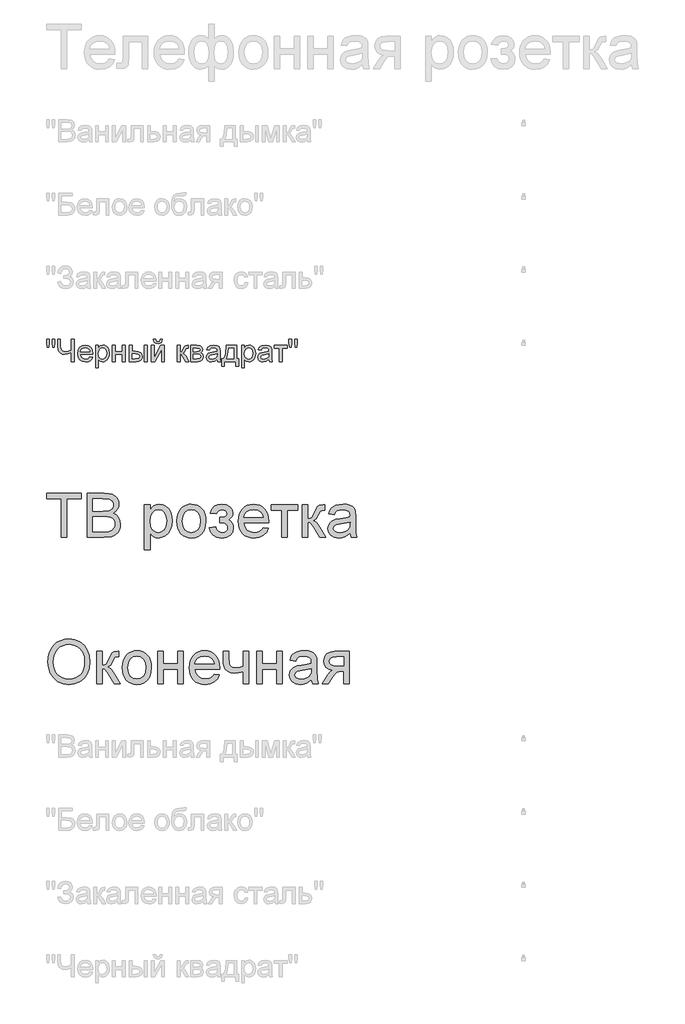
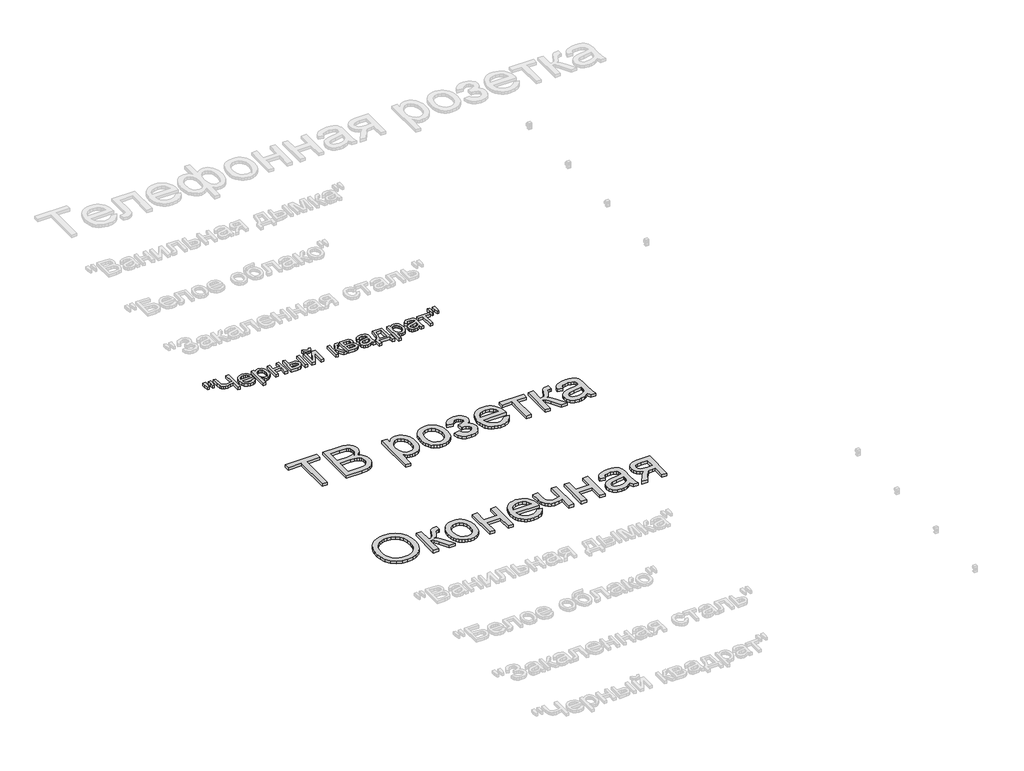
# One storey, part 28 of 168: 3 proxies.
"""IFC4 building model written with IfcOpenShell, lengths in millimetres."""

from ifc_helpers import new_model, si_unit, origin, origin_with_axes, place, context, project, spatial, polyline, outline, extrude, element, save

model = new_model("IFC4")

# Units and contexts
model_context = context("Model", 3, world=origin())
ifc_project = project(units=[si_unit("LENGTHUNIT", "METRE", prefix="MILLI")], contexts=[model_context])

# Site, building, storey
site = spatial("IfcSite", under=ifc_project)
building = spatial("IfcBuilding", under=site)
storey = spatial("IfcBuildingStorey", under=building, Name="Этаж 01", Elevation=0.0)

# Proxies
placement = place(None, origin())
element("IfcBuildingElementProxy", 1, Name="300 мм Arial 2", ObjectType="300 мм Arial 2", at=placement, inside=storey, context=model_context, shape_type="SweptSolid", body=[
    extrude(outline(polyline([(54484.0654293, -49766.8622977), (54484.0654293, -49503.1644836), (54385.178749, -49503.1644836), (54385.178749, -49465.4933673), (54620.6232259, -49465.4933673), (54620.6232259, -49503.1644836), (54521.7365456, -49503.1644836), (54521.7365456, -49766.8622977), (54484.0654293, -49766.8622977)])), origin_with_axes(), (0.0, 0.0, 1.0), 20.0),
    extrude(outline(polyline([(54663.0032317, -49766.8622977), (54663.0032317, -49465.4933673), (54778.0031434, -49465.4933673), (54809.631798, -49467.7098563), (54834.3258769, -49474.3593234), (54853.2534056, -49485.6073154), (54867.5824093, -49501.6193792), (54876.6047152, -49520.4549374), (54879.6121505, -49540.1734123), (54877.0829618, -49558.3191917), (54869.4953956, -49575.3797192), (54856.7942698, -49590.3065312), (54838.9244018, -49602.0511639), (54860.2707546, -49613.1979883), (54876.0436952, -49630.1573483), (54885.783371, -49651.8072037), (54889.0299296, -49677.0255145), (54886.8134406, -49698.0407735), (54880.1639735, -49717.5293222), (54870.2403567, -49734.1024061), (54858.2014184, -49746.3712706), (54843.4585474, -49755.2556208), (54825.4231326, -49761.6751616), (54777.1202267, -49766.8622977), (54663.0032317, -49766.8622977)]), holes=[polyline([(54700.6743481, -49587.9244953), (54769.4682812, -49587.9244953), (54809.640995, -49584.6871337), (54823.7032843, -49579.1045244), (54833.8108421, -49570.7444061), (54839.9084862, -49559.7355374), (54841.9410342, -49546.206677), (54840.0464419, -49533.0732898), (54834.3626651, -49521.6321597), (54825.1472211, -49512.7018243), (54812.6576274, -49507.1008209), (54764.2443568, -49503.1644836), (54700.6743481, -49503.1644836), (54700.6743481, -49587.9244953)]), polyline([(54700.6743481, -49729.1911814), (54777.929567, -49729.1911814), (54805.8885987, -49727.7196534), (54829.543411, -49719.515885), (54845.215184, -49702.7772542), (54849.8229059, -49690.949848), (54851.3588133, -49677.3933965), (54849.5561915, -49661.6480471), (54844.1483262, -49648.1099897), (54834.7029559, -49637.5241853), (54820.7878195, -49630.6355949), (54801.0785416, -49626.8556074), (54774.2507471, -49625.5956116), (54700.6743481, -49625.5956116), (54700.6743481, -49729.1911814)])]), origin_with_axes(), (0.0, 0.0, 1.0), 20.0),
    extrude(outline(polyline([(55053.8410634, -49851.6223094), (55053.8410634, -49545.5444894), (55091.5121797, -49545.5444894), (55091.5121797, -49582.4798418), (55103.7994384, -49564.2604859), (55117.558225, -49551.2466604), (55133.59788, -49543.438365), (55152.7277437, -49540.8355999), (55178.2035719, -49544.4776316), (55200.4788267, -49555.4037269), (55218.6154091, -49572.9516981), (55231.6752199, -49596.4593576), (55239.5662887, -49624.2160541), (55242.196645, -49654.5111364), (55239.2259978, -49686.7284021), (55230.3140565, -49715.5427594), (55215.7459295, -49739.4918773), (55195.8067254, -49757.1134249), (55172.5841744, -49767.9567467), (55148.166007, -49771.5711873), (55130.8479621, -49769.1523632), (55115.3877212, -49761.8958908), (55102.1531664, -49750.9422044), (55091.5121797, -49737.4317381), (55091.5121797, -49851.6223094), (55053.8410634, -49851.6223094)]), holes=[polyline([(55091.5121797, -49657.9692272), (55095.5864728, -49691.7407943), (55107.8093521, -49715.3588184), (55125.8447669, -49729.2647578), (55147.3566666, -49733.900071), (55169.2180542, -49729.0992109), (55187.7133215, -49714.6966308), (55200.3224769, -49690.214084), (55204.5255286, -49655.173324), (55200.4236444, -49621.5856978), (55188.1179917, -49597.63658), (55170.110168, -49583.2891821), (55148.901771, -49578.5067162), (55127.6106005, -49583.5926848), (55108.9129981, -49598.8505905), (55095.8623843, -49623.8021869), (55091.5121797, -49657.9692272)])]), origin_with_axes(), (0.0, 0.0, 1.0), 20.0),
    extrude(outline(polyline([(55275.1588717, -49656.2033936), (55277.1960183, -49627.5407876), (55283.3074579, -49602.8421102), (55293.4931907, -49582.1073612), (55307.7532165, -49565.3365408), (55322.1098114, -49554.6173791), (55337.9563283, -49546.9608351), (55355.2927673, -49542.3669087), (55374.1191284, -49540.8355999), (55394.9021619, -49542.7003018), (55413.6940341, -49548.2944073), (55430.4947449, -49557.6179167), (55445.3042945, -49570.6708297), (55457.3915173, -49587.0116881), (55466.0252479, -49606.1990334), (55471.2054862, -49628.2328656), (55472.9322323, -49653.1131848), (55469.8788118, -49691.1705772), (55460.7185501, -49720.1412843), (55445.7181617, -49741.837125), (55425.1443612, -49758.069918), (55400.7077996, -49768.19587), (55374.1191284, -49771.5711873), (55353.0325923, -49769.7133832), (55334.0659762, -49764.139971), (55317.2192801, -49754.8509506), (55302.492504, -49741.8463221), (55290.5340399, -49725.3468146), (55281.9922798, -49705.5731573), (55276.8672237, -49682.5253503), (55275.1588717, -49656.2033936)]), holes=[polyline([(55312.829988, -49656.1298172), (55317.1893897, -49690.2232811), (55330.2675946, -49714.5126898), (55349.9492813, -49729.0532257), (55374.1191284, -49733.900071), (55398.1786109, -49729.0256345), (55417.8235094, -49714.4023252), (55430.9017144, -49689.7910197), (55435.261116, -49654.9525948), (55430.8741232, -49621.8524123), (55417.7131449, -49597.8940973), (55398.0406552, -49583.3535615), (55374.1191284, -49578.5067162), (55349.9492813, -49583.3351674), (55330.2675946, -49597.820521), (55317.1893897, -49622.0547474), (55312.829988, -49656.1298172)])]), origin_with_axes(), (0.0, 0.0, 1.0), 20.0),
    extrude(outline(polyline([(55567.1100231, -49667.9756174), (55567.1100231, -49630.3045011), (55596.8348883, -49628.8329731), (55611.8444737, -49620.9970866), (55617.1419744, -49613.6486438), (55618.907808, -49604.6263379), (55616.5441662, -49593.9117748), (55609.4532407, -49585.6068387), (55598.628313, -49580.2817468), (55585.0626645, -49578.5067162), (55571.3498631, -49580.2725498), (55559.8627478, -49585.5700505), (55550.6013186, -49594.3992184), (55543.5655754, -49606.7600534), (55501.1855696, -49602.0511639), (55512.4243645, -49575.2693546), (55529.5124832, -49556.1394909), (55552.4499256, -49544.6615726), (55581.2366917, -49540.8355999), (55612.7273905, -49545.4985042), (55636.5661438, -49559.4872171), (55651.5757292, -49579.950653), (55656.5789243, -49604.0377267), (55654.7992952, -49616.3985617), (55649.4604077, -49627.4350216), (55640.562262, -49637.1471062), (55628.1048579, -49645.5348157), (55642.6453938, -49656.0010585), (55653.010469, -49669.005687), (55659.2184776, -49684.5854895), (55661.2878139, -49702.7772542), (55656.0362984, -49730.5063596), (55640.2817519, -49752.4781117), (55615.0910323, -49766.7979184), (55581.5309973, -49771.5711873), (55548.7067263, -49767.1566033), (55523.5895831, -49753.9128515), (55506.1795676, -49731.8399318), (55496.47668, -49700.9378442), (55538.8566859, -49696.2289547), (55545.2026503, -49712.1582451), (55555.852834, -49724.0408335), (55569.5748325, -49731.4352616), (55585.1362409, -49733.900071), (55600.2929791, -49731.5364291), (55612.6538141, -49724.4455037), (55620.8759767, -49713.6757583), (55623.6166976, -49700.2756566), (55621.9152433, -49689.662261), (55616.8108806, -49680.4836053), (55602.31633, -49669.8886038), (55574.467663, -49667.7548882), (55567.1100231, -49667.9756174)])), origin_with_axes(), (0.0, 0.0, 1.0), 20.0),
    extrude(outline(polyline([(55863.3286056, -49700.9378442), (55900.2639579, -49705.6467337), (55886.9558267, -49733.4770067), (55865.7198386, -49754.2807335), (55837.03424, -49767.2485738), (55801.3772776, -49771.5711873), (55778.0029754, -49769.7064854), (55757.1762559, -49764.1123798), (55738.8971193, -49754.7888705), (55723.1655654, -49741.7359575), (55710.5150233, -49725.3169242), (55701.4789218, -49705.8950541), (55696.0572609, -49683.4703472), (55694.2500406, -49658.0428036), (55696.075655, -49631.7530365), (55701.5524982, -49608.5810693), (55710.6805702, -49588.526902), (55723.459871, -49571.5905347), (55739.1500381, -49558.1352507), (55757.010709, -49548.5243336), (55777.0418836, -49542.7577833), (55799.243562, -49540.8355999), (55820.7301698, -49542.7531848), (55840.161237, -49548.5059395), (55857.5367634, -49558.093864), (55872.8567493, -49571.5169583), (55885.3624379, -49588.4165374), (55894.2950726, -49608.4339165), (55899.6546534, -49631.5690955), (55901.4411803, -49657.8220744), (55901.2204511, -49667.9756174), (55731.9211569, -49667.9756174), (55738.4418653, -49696.1737724), (55753.5894064, -49716.9039228), (55775.450794, -49729.6510339), (55802.1130416, -49733.900071), (55822.1626103, -49731.9319023), (55839.0483939, -49726.0273963), (55852.7703923, -49715.8186709), (55863.3286056, -49700.9378442)]), holes=[polyline([(55731.9211569, -49630.3045011), (55863.770064, -49630.3045011), (55858.6748984, -49610.4020852), (55848.6869022, -49596.165052), (55826.7243471, -49582.9213001), (55799.0964093, -49578.5067162), (55773.7033545, -49582.0291863), (55752.7064897, -49592.5965966), (55738.1107715, -49609.068513), (55731.9211569, -49630.3045011)])]), origin_with_axes(), (0.0, 0.0, 1.0), 20.0),
    extrude(outline(polyline([(55920.2767385, -49545.5444894), (56099.2145409, -49545.5444894), (56099.2145409, -49583.2156057), (56028.5811978, -49583.2156057), (56028.5811978, -49766.8622977), (55990.9100815, -49766.8622977), (55990.9100815, -49583.2156057), (55920.2767385, -49583.2156057), (55920.2767385, -49545.5444894)])), origin_with_axes(), (0.0, 0.0, 1.0), 20.0),
    extrude(outline(polyline([(56132.1767677, -49545.5444894), (56169.847884, -49545.5444894), (56169.847884, -49639.7222802), (56185.1701691, -49638.030023), (56195.0845889, -49632.9532515), (56203.8585744, -49619.7094997), (56215.759557, -49593.5163016), (56232.9396462, -49559.4872171), (56248.0963844, -49548.413969), (56275.6507458, -49545.5444894), (56282.8612329, -49545.5444894), (56282.8612329, -49583.4363349), (56272.7076898, -49583.2156057), (56254.3135901, -49587.1887313), (56241.3641439, -49611.9839778), (56226.1706175, -49638.8025752), (56204.8702499, -49651.9359624), (56216.8080207, -49657.2380617), (56228.6354268, -49666.5960599), (56251.9591453, -49697.4797534), (56292.279012, -49766.8622977), (56249.4575477, -49766.8622977), (56209.9470215, -49698.9512814), (56190.0813937, -49670.2196976), (56180.7923733, -49665.0049703), (56169.847884, -49663.2667279), (56169.847884, -49766.8622977), (56132.1767677, -49766.8622977), (56132.1767677, -49545.5444894)])), origin_with_axes(), (0.0, 0.0, 1.0), 20.0),
    extrude(outline(polyline([(56457.0901458, -49738.6089605), (56439.0915192, -49754.0416102), (56420.5594637, -49764.139971), (56401.070915, -49769.7133832), (56380.2028088, -49771.5711873), (56348.7213071, -49767.101421), (56325.4987561, -49753.6921223), (56311.1789495, -49733.3298539), (56306.4056806, -49708.0011785), (56308.2083024, -49692.3845878), (56313.6161677, -49678.2027369), (56321.9578919, -49666.0626311), (56332.5620905, -49656.5712756), (56358.9392295, -49644.2104405), (56391.5335743, -49638.5450578), (56430.0508192, -49632.5853695), (56456.8694166, -49625.5956116), (56457.0901458, -49617.2079021), (56454.4965778, -49600.3956949), (56446.7158736, -49589.3960233), (56429.3150552, -49581.229043), (56405.0716317, -49578.5067162), (56382.63083, -49580.318535), (56366.959057, -49585.7539915), (56356.272085, -49595.806367), (56348.7856864, -49611.468943), (56311.1145701, -49606.7600534), (56317.6536726, -49586.1586617), (56327.4117425, -49569.9718539), (56341.2992878, -49557.5926248), (56360.2268165, -49548.413969), (56383.375791, -49542.7301922), (56409.927674, -49540.8355999), (56435.3943052, -49542.509463), (56455.5818296, -49547.5310522), (56470.8029472, -49555.0818302), (56481.3703575, -49564.3432594), (56488.3785095, -49575.7935865), (56492.9218522, -49589.9110581), (56494.7612621, -49622.8732848), (56494.7612621, -49669.741451), (56496.6742485, -49735.1876579), (56504.1790412, -49766.8622977), (56466.5079249, -49766.8622977), (56457.0901458, -49738.6089605)]), holes=[polyline([(56457.0901458, -49663.2667279), (56396.3160402, -49674.8182225), (56363.9056364, -49680.9250637), (56349.2271448, -49690.8578775), (56344.0767969, -49705.3524281), (56346.8818971, -49716.5544349), (56355.2971978, -49725.7330907), (56369.1387578, -49731.8583259), (56388.2226363, -49733.900071), (56408.4561461, -49731.6467937), (56426.335211, -49724.8869621), (56440.8297616, -49714.9265571), (56450.9097283, -49703.0715598), (56455.3794945, -49690.8578775), (56456.8694166, -49673.9353058), (56457.0901458, -49663.2667279)])]), origin_with_axes(), (0.0, 0.0, 1.0), 20.0),
])
element("IfcBuildingElementProxy", 2, Name="300 мм Arial 2", ObjectType="300 мм Arial 2", at=placement, inside=storey, context=model_context, shape_type="SweptSolid", body=[
    extrude(outline(polyline([(54394.5965281, -50620.1509581), (54397.1073227, -50584.8020968), (54404.6397065, -50553.5091346), (54417.1936796, -50526.2720714), (54434.7692419, -50503.0909072), (54456.3133313, -50484.5818443), (54480.7728854, -50471.3610851), (54508.1479044, -50463.4286296), (54538.4383882, -50460.7844777), (54577.9673086, -50465.7508847), (54613.4127388, -50480.6501055), (54642.8432984, -50504.4336765), (54664.3276069, -50536.053134), (54677.4609942, -50573.9817677), (54681.8387899, -50616.6928673), (54677.2310679, -50659.974184), (54663.4079019, -50698.4362466), (54641.1326471, -50730.1108864), (54611.1686586, -50753.0299347), (54576.026731, -50766.9358741), (54538.217659, -50771.5711873), (54498.0817333, -50766.4484305), (54462.433968, -50751.0801601), (54433.0769848, -50726.8551308), (54411.8134054, -50695.1620969), (54398.9007474, -50658.6957941), (54394.5965281, -50620.1509581)]), holes=[polyline([(54432.2676444, -50620.5188401), (54434.1507403, -50645.493429), (54439.8000282, -50667.6629177), (54449.215508, -50687.0273063), (54462.3971798, -50703.5865946), (54478.4207399, -50716.8487405), (54496.361885, -50726.3217019), (54516.2206149, -50732.0054787), (54537.9969298, -50733.900071), (54560.1457252, -50731.9870846), (54580.2389799, -50726.2481255), (54598.276694, -50716.6831936), (54614.2588674, -50703.292289), (54627.3439701, -50686.3835128), (54636.690472, -50666.2649662), (54642.2983732, -50642.9366491), (54644.1676736, -50616.3985617), (54640.9671002, -50583.0500588), (54631.3653802, -50554.2265045), (54615.6108337, -50530.6544657), (54593.9517813, -50513.0605093), (54567.8229625, -50502.1068229), (54538.6591174, -50498.4555941), (54517.6392599, -50500.2145298), (54498.1369156, -50505.4913372), (54480.1520846, -50514.2860162), (54463.6847668, -50526.5985667), (54449.9397757, -50543.0221985), (54440.121925, -50564.1501213), (54434.2312145, -50589.9823352), (54432.2676444, -50620.5188401)])]), origin_with_axes(), (0.0, 0.0, 1.0), 20.0),
    extrude(outline(polyline([(54728.9276853, -50545.5444894), (54766.5988016, -50545.5444894), (54766.5988016, -50639.7222802), (54781.9210867, -50638.030023), (54791.8355065, -50632.9532515), (54800.609492, -50619.7094997), (54812.5104746, -50593.5163016), (54829.6905638, -50559.4872171), (54844.847302, -50548.413969), (54872.4016634, -50545.5444894), (54879.6121505, -50545.5444894), (54879.6121505, -50583.4363349), (54869.4586074, -50583.2156057), (54851.0645077, -50587.1887313), (54838.1150615, -50611.9839778), (54822.921535, -50638.8025752), (54801.6211675, -50651.9359624), (54813.5589383, -50657.2380617), (54825.3863444, -50666.5960599), (54848.7100629, -50697.4797534), (54889.0299296, -50766.8622977), (54846.2084653, -50766.8622977), (54806.6979391, -50698.9512814), (54786.8323113, -50670.2196976), (54777.5432909, -50665.0049703), (54766.5988016, -50663.2667279), (54766.5988016, -50766.8622977), (54728.9276853, -50766.8622977), (54728.9276853, -50545.5444894)])), origin_with_axes(), (0.0, 0.0, 1.0), 20.0),
    extrude(outline(polyline([(54903.1565982, -50656.2033936), (54905.1937447, -50627.5407876), (54911.3051844, -50602.8421102), (54921.4909171, -50582.1073612), (54935.750943, -50565.3365408), (54950.1075378, -50554.6173791), (54965.9540548, -50546.9608351), (54983.2904938, -50542.3669087), (55002.1168549, -50540.8355999), (55022.8998884, -50542.7003018), (55041.6917605, -50548.2944073), (55058.4924714, -50557.6179167), (55073.302021, -50570.6708297), (55085.3892438, -50587.0116881), (55094.0229743, -50606.1990334), (55099.2032127, -50628.2328656), (55100.9299588, -50653.1131848), (55097.8765382, -50691.1705772), (55088.7162766, -50720.1412843), (55073.7158882, -50741.837125), (55053.1420876, -50758.069918), (55028.7055261, -50768.19587), (55002.1168549, -50771.5711873), (54981.0303188, -50769.7133832), (54962.0637027, -50764.139971), (54945.2170066, -50754.8509506), (54930.4902304, -50741.8463221), (54918.5317663, -50725.3468146), (54909.9900063, -50705.5731573), (54904.8649502, -50682.5253503), (54903.1565982, -50656.2033936)]), holes=[polyline([(54940.8277145, -50656.1298172), (54945.1871161, -50690.2232811), (54958.2653211, -50714.5126898), (54977.9470078, -50729.0532257), (55002.1168549, -50733.900071), (55026.1763374, -50729.0256345), (55045.8212359, -50714.4023252), (55058.8994409, -50689.7910197), (55063.2588425, -50654.9525948), (55058.8718497, -50621.8524123), (55045.7108713, -50597.8940973), (55026.0383816, -50583.3535615), (55002.1168549, -50578.5067162), (54977.9470078, -50583.3351674), (54958.2653211, -50597.820521), (54945.1871161, -50622.0547474), (54940.8277145, -50656.1298172)])]), origin_with_axes(), (0.0, 0.0, 1.0), 20.0),
    extrude(outline(polyline([(55143.3099646, -50545.5444894), (55180.981081, -50545.5444894), (55180.981081, -50630.3045011), (55279.8677613, -50630.3045011), (55279.8677613, -50545.5444894), (55317.5388776, -50545.5444894), (55317.5388776, -50766.8622977), (55279.8677613, -50766.8622977), (55279.8677613, -50667.9756174), (55180.981081, -50667.9756174), (55180.981081, -50766.8622977), (55143.3099646, -50766.8622977), (55143.3099646, -50545.5444894)])), origin_with_axes(), (0.0, 0.0, 1.0), 20.0),
    extrude(outline(polyline([(55528.9974484, -50700.9378442), (55565.9328007, -50705.6467337), (55552.6246695, -50733.4770067), (55531.3886814, -50754.2807335), (55502.7030828, -50767.2485738), (55467.0461204, -50771.5711873), (55443.6718181, -50769.7064854), (55422.8450987, -50764.1123798), (55404.565962, -50754.7888705), (55388.8344082, -50741.7359575), (55376.1838661, -50725.3169242), (55367.1477646, -50705.8950541), (55361.7261037, -50683.4703472), (55359.9188834, -50658.0428036), (55361.7444978, -50631.7530365), (55367.221341, -50608.5810693), (55376.349413, -50588.526902), (55389.1287138, -50571.5905347), (55404.8188809, -50558.1352507), (55422.6795518, -50548.5243336), (55442.7107264, -50542.7577833), (55464.9124048, -50540.8355999), (55486.3990126, -50542.7531848), (55505.8300797, -50548.5059395), (55523.2056062, -50558.093864), (55538.5255921, -50571.5169583), (55551.0312806, -50588.4165374), (55559.9639153, -50608.4339165), (55565.3234962, -50631.5690955), (55567.1100231, -50657.8220744), (55566.8892939, -50667.9756174), (55397.5899997, -50667.9756174), (55404.1107081, -50696.1737724), (55419.2582492, -50716.9039228), (55441.1196368, -50729.6510339), (55467.7818844, -50733.900071), (55487.8314531, -50731.9319023), (55504.7172367, -50726.0273963), (55518.4392351, -50715.8186709), (55528.9974484, -50700.9378442)]), holes=[polyline([(55397.5899997, -50630.3045011), (55529.4389068, -50630.3045011), (55524.3437412, -50610.4020852), (55514.355745, -50596.165052), (55492.3931899, -50582.9213001), (55464.765252, -50578.5067162), (55439.3721973, -50582.0291863), (55418.3753324, -50592.5965966), (55403.7796143, -50609.068513), (55397.5899997, -50630.3045011)])]), origin_with_axes(), (0.0, 0.0, 1.0), 20.0),
    extrude(outline(polyline([(55590.6544708, -50545.5444894), (55628.3255871, -50545.5444894), (55628.3255871, -50587.9980717), (55631.3790077, -50627.8029036), (55636.5753408, -50639.3727923), (55646.0574993, -50649.3607885), (55659.1540983, -50656.2585759), (55675.1937533, -50658.5578384), (55698.2415603, -50655.7067529), (55727.2122674, -50647.1534965), (55727.2122674, -50545.5444894), (55764.8833837, -50545.5444894), (55764.8833837, -50766.8622977), (55727.2122674, -50766.8622977), (55727.2122674, -50683.2795084), (55695.059381, -50692.9915931), (55665.1137866, -50696.2289547), (55642.3326941, -50692.8536374), (55622.402687, -50682.7276854), (55606.8688697, -50667.708903), (55597.2763467, -50649.6550941), (55592.3099398, -50629.1088846), (55590.6544708, -50606.6129006), (55590.6544708, -50545.5444894)])), origin_with_axes(), (0.0, 0.0, 1.0), 20.0),
    extrude(outline(polyline([(55821.3900582, -50545.5444894), (55859.0611745, -50545.5444894), (55859.0611745, -50630.3045011), (55957.9478548, -50630.3045011), (55957.9478548, -50545.5444894), (55995.6189711, -50545.5444894), (55995.6189711, -50766.8622977), (55957.9478548, -50766.8622977), (55957.9478548, -50667.9756174), (55859.0611745, -50667.9756174), (55859.0611745, -50766.8622977), (55821.3900582, -50766.8622977), (55821.3900582, -50545.5444894)])), origin_with_axes(), (0.0, 0.0, 1.0), 20.0),
    extrude(outline(polyline([(56193.3923317, -50738.6089605), (56175.3937051, -50754.0416102), (56156.8616496, -50764.139971), (56137.3731009, -50769.7133832), (56116.5049947, -50771.5711873), (56085.023493, -50767.101421), (56061.800942, -50753.6921223), (56047.4811353, -50733.3298539), (56042.7078665, -50708.0011785), (56044.5104882, -50692.3845878), (56049.9183536, -50678.2027369), (56058.2600778, -50666.0626311), (56068.8642763, -50656.5712756), (56095.2414154, -50644.2104405), (56127.8357601, -50638.5450578), (56166.353005, -50632.5853695), (56193.1716025, -50625.5956116), (56193.3923317, -50617.2079021), (56190.7987636, -50600.3956949), (56183.0180594, -50589.3960233), (56165.617241, -50581.229043), (56141.3738176, -50578.5067162), (56118.9330159, -50580.318535), (56103.2612429, -50585.7539915), (56092.5742709, -50595.806367), (56085.0878723, -50611.468943), (56047.416756, -50606.7600534), (56053.9558585, -50586.1586617), (56063.7139284, -50569.9718539), (56077.6014737, -50557.5926248), (56096.5290024, -50548.413969), (56119.6779769, -50542.7301922), (56146.2298599, -50540.8355999), (56171.696491, -50542.509463), (56191.8840155, -50547.5310522), (56207.1051331, -50555.0818302), (56217.6725434, -50564.3432594), (56224.6806954, -50575.7935865), (56229.224038, -50589.9110581), (56231.063448, -50622.8732848), (56231.063448, -50669.741451), (56232.9764344, -50735.1876579), (56240.4812271, -50766.8622977), (56202.8101108, -50766.8622977), (56193.3923317, -50738.6089605)]), holes=[polyline([(56193.3923317, -50663.2667279), (56132.6182261, -50674.8182225), (56100.2078223, -50680.9250637), (56085.5293307, -50690.8578775), (56080.3789828, -50705.3524281), (56083.184083, -50716.5544349), (56091.5993836, -50725.7330907), (56105.4409437, -50731.8583259), (56124.5248222, -50733.900071), (56144.7583319, -50731.6467937), (56162.6373969, -50724.8869621), (56177.1319475, -50714.9265571), (56187.2119142, -50703.0715598), (56191.6816804, -50690.8578775), (56193.1716025, -50673.9353058), (56193.3923317, -50663.2667279)])]), origin_with_axes(), (0.0, 0.0, 1.0), 20.0),
    extrude(outline(polyline([(56452.3812563, -50545.5444894), (56452.3812563, -50766.8622977), (56414.71014, -50766.8622977), (56414.71014, -50682.102286), (56394.1823246, -50682.102286), (56366.223293, -50686.884752), (56355.0580745, -50697.3142065), (56339.9565186, -50719.0376384), (56309.9373478, -50766.8622977), (56266.3801195, -50766.8622977), (56304.1983886, -50706.3824977), (56320.9002312, -50684.67746), (56336.2776986, -50675.0389517), (56310.5259589, -50667.1478829), (56292.4261648, -50652.1566916), (56281.7207987, -50632.2174875), (56278.1523434, -50609.4823802), (56283.0267798, -50583.6938523), (56297.6500891, -50563.2764016), (56321.5072365, -50549.9774675), (56354.0831872, -50545.5444894), (56452.3812563, -50545.5444894)]), holes=[polyline([(56414.71014, -50583.2156057), (56365.0460706, -50583.2156057), (56339.3954985, -50585.3953066), (56324.8365686, -50591.934409), (56318.0767369, -50601.3981734), (56315.8234597, -50612.3518598), (56319.1435947, -50626.7084546), (56329.1039997, -50636.6688596), (56347.5072965, -50642.4905922), (56376.1561069, -50644.4311697), (56414.71014, -50644.4311697), (56414.71014, -50583.2156057)])]), origin_with_axes(), (0.0, 0.0, 1.0), 20.0),
])
element("IfcBuildingElementProxy", 3, Name="150", ObjectType="150", at=placement, inside=storey, context=model_context, shape_type="SweptSolid", body=[
    extrude(outline(polyline([(54389.7772739, -48470.3300622), (54385.178749, -48441.2305964), (54385.178749, -48416.1778325), (54404.0143071, -48416.1778325), (54404.0143071, -48441.2305964), (54399.8940288, -48470.3300622), (54389.7772739, -48470.3300622)])), origin_with_axes(), (0.0, 0.0, 1.0), 20.0),
    extrude(outline(polyline([(54427.3380256, -48470.3300622), (54422.8498653, -48441.2305964), (54422.8498653, -48416.1778325), (54441.6854234, -48416.1778325), (54441.6854234, -48441.2305964), (54437.2708395, -48470.3300622), (54427.3380256, -48470.3300622)])), origin_with_axes(), (0.0, 0.0, 1.0), 20.0),
    extrude(outline(polyline([(54573.5343305, -48566.8622977), (54554.6987724, -48566.8622977), (54554.6987724, -48506.5296505), (54529.7195849, -48514.6966308), (54508.0513354, -48517.4189576), (54493.3682452, -48515.556555), (54480.515368, -48509.9693472), (54470.554963, -48501.5172583), (54464.5492894, -48491.0602126), (54460.5209816, -48461.0594359), (54460.5209816, -48416.1778325), (54479.3565398, -48416.1778325), (54479.3565398, -48458.5210502), (54481.619014, -48478.8879171), (54488.4064368, -48490.8394834), (54498.3668419, -48496.6474204), (54510.1482628, -48498.5833994), (54531.8808916, -48496.2473488), (54554.6987724, -48489.2391968), (54554.6987724, -48416.1778325), (54573.5343305, -48416.1778325), (54573.5343305, -48566.8622977)])), origin_with_axes(), (0.0, 0.0, 1.0), 20.0),
    extrude(outline(polyline([(54681.6180607, -48533.900071), (54700.0857369, -48536.2545157), (54693.4316713, -48550.1696522), (54682.8136772, -48560.5715156), (54668.4708779, -48567.0554358), (54650.6423967, -48569.2167425), (54628.5418858, -48565.4873388), (54611.5365406, -48554.2991276), (54600.6932188, -48536.3786759), (54597.0787782, -48512.4525506), (54600.730007, -48487.7216835), (54611.6836934, -48469.2264162), (54628.4591124, -48457.6933157), (54649.5755389, -48453.8489488), (54670.0343764, -48457.6841186), (54686.3821325, -48469.189628), (54697.1012942, -48487.6481071), (54700.6743481, -48512.342186), (54700.5639835, -48517.4189576), (54615.9143364, -48517.4189576), (54619.1746905, -48531.518035), (54626.7484611, -48541.8831103), (54637.6791549, -48548.2566658), (54651.0102787, -48550.3811843), (54669.4779549, -48546.444847), (54681.6180607, -48533.900071)]), holes=[polyline([(54615.9143364, -48498.5833994), (54681.8387899, -48498.5833994), (54679.2912071, -48488.6321915), (54674.297209, -48481.5136749), (54663.3159314, -48474.8917989), (54649.5019625, -48472.684507), (54636.8054352, -48474.445742), (54626.3070027, -48479.7294472), (54619.0091436, -48487.9654053), (54615.9143364, -48498.5833994)])]), origin_with_axes(), (0.0, 0.0, 1.0), 20.0),
    extrude(outline(polyline([(54719.5099062, -48609.2423036), (54719.5099062, -48456.2033936), (54738.3454644, -48456.2033936), (54738.3454644, -48474.6710697), (54751.368487, -48459.054479), (54768.9532464, -48453.8489488), (54781.6911604, -48455.6699647), (54792.8287878, -48461.1330123), (54801.897079, -48469.9069979), (54808.4269844, -48481.6608277), (54813.687697, -48510.6867171), (54812.2023734, -48526.7953499), (54807.7464027, -48541.2025286), (54800.4623392, -48553.1770875), (54790.4927372, -48561.9878613), (54778.8814617, -48567.4095222), (54766.672378, -48569.2167425), (54750.2832351, -48564.3790943), (54738.3454644, -48552.1470179), (54738.3454644, -48609.2423036), (54719.5099062, -48609.2423036)]), holes=[polyline([(54738.3454644, -48512.4157624), (54740.3826109, -48529.301546), (54746.4940506, -48541.1105581), (54755.511758, -48548.0635278), (54766.2677078, -48550.3811843), (54777.1984016, -48547.9807543), (54786.4460352, -48540.7794643), (54792.7506129, -48528.5381909), (54794.8521388, -48511.0178109), (54792.8011967, -48494.2239978), (54786.6483703, -48482.2494388), (54777.6444585, -48475.0757399), (54767.04026, -48472.684507), (54756.3946747, -48475.2274913), (54747.0458735, -48482.8564441), (54740.5205667, -48495.3322423), (54738.3454644, -48512.4157624)])]), origin_with_axes(), (0.0, 0.0, 1.0), 20.0),
    extrude(outline(polyline([(54834.8776999, -48456.2033936), (54853.713258, -48456.2033936), (54853.713258, -48498.5833994), (54903.1565982, -48498.5833994), (54903.1565982, -48456.2033936), (54921.9921564, -48456.2033936), (54921.9921564, -48566.8622977), (54903.1565982, -48566.8622977), (54903.1565982, -48517.4189576), (54853.713258, -48517.4189576), (54853.713258, -48566.8622977), (54834.8776999, -48566.8622977), (54834.8776999, -48456.2033936)])), origin_with_axes(), (0.0, 0.0, 1.0), 20.0),
    extrude(outline(polyline([(55053.8410634, -48456.2033936), (55072.6766216, -48456.2033936), (55072.6766216, -48566.8622977), (55053.8410634, -48566.8622977), (55053.8410634, -48456.2033936)])), origin_with_axes(), (0.0, 0.0, 1.0), 20.0),
    extrude(outline(polyline([(54950.2454936, -48456.2033936), (54969.0810517, -48456.2033936), (54969.0810517, -48496.2289547), (54992.367982, -48496.2289547), (55012.4957257, -48498.587998), (55027.4087421, -48505.6651278), (55036.6379816, -48516.8901272), (55039.7143948, -48531.692779), (55037.1346223, -48545.1710556), (55029.3953048, -48556.5432078), (55015.9906046, -48564.2825252), (54996.414684, -48566.8622977), (54950.2454936, -48566.8622977), (54950.2454936, -48456.2033936)]), holes=[polyline([(54969.0810517, -48548.0267396), (54988.4316447, -48548.0267396), (55013.4108322, -48544.0720081), (55019.0118355, -48539.0090322), (55020.8788367, -48531.7295672), (55015.3422126, -48520.1412843), (55006.462461, -48516.3337057), (54990.896454, -48515.0645128), (54969.0810517, -48515.0645128), (54969.0810517, -48548.0267396)])]), origin_with_axes(), (0.0, 0.0, 1.0), 20.0),
    extrude(outline(polyline([(55100.9299588, -48456.2033936), (55119.765517, -48456.2033936), (55119.765517, -48540.5955233), (55166.045072, -48456.2033936), (55190.39886, -48456.2033936), (55190.39886, -48566.8622977), (55171.5633019, -48566.8622977), (55171.5633019, -48482.9852028), (55125.5780525, -48566.8622977), (55100.9299588, -48566.8622977), (55100.9299588, -48456.2033936)])), origin_with_axes(), (0.0, 0.0, 1.0), 20.0),
    extrude(outline(polyline([(55162.1455228, -48416.1778325), (55176.2721914, -48416.1778325), (55173.2325664, -48428.2397634), (55167.1303238, -48437.1287121), (55158.2413751, -48442.6055553), (55146.8416318, -48444.4311697), (55134.4715997, -48442.6193509), (55124.8790767, -48437.1838944), (55118.3215801, -48428.3087413), (55115.0566274, -48416.1778325), (55129.183296, -48416.1778325), (55134.4807968, -48426.7912281), (55145.1493746, -48430.3045011), (55156.8480221, -48426.9015927), (55162.1455228, -48416.1778325)])), origin_with_axes(), (0.0, 0.0, 1.0), 20.0),
    extrude(outline(polyline([(55277.5133165, -48456.2033936), (55296.3488746, -48456.2033936), (55296.3488746, -48503.292289), (55308.9672271, -48499.9077746), (55319.3047111, -48480.1892997), (55327.8947557, -48463.1747574), (55335.4731248, -48457.6381334), (55349.2503055, -48456.2033936), (55352.8555491, -48456.2033936), (55352.8555491, -48475.1493163), (55347.7787776, -48475.0389517), (55338.5817277, -48477.0255145), (55332.1070046, -48489.4231377), (55324.5102414, -48502.8324365), (55313.8600576, -48509.3991301), (55325.7426461, -48516.7291788), (55337.4045053, -48532.1710256), (55357.5644386, -48566.8622977), (55336.1537065, -48566.8622977), (55316.3984434, -48532.9067896), (55306.4656295, -48518.5409977), (55296.3488746, -48515.0645128), (55296.3488746, -48566.8622977), (55277.5133165, -48566.8622977), (55277.5133165, -48456.2033936)])), origin_with_axes(), (0.0, 0.0, 1.0), 20.0),
    extrude(outline(polyline([(55369.3366625, -48456.2033936), (55410.8337515, -48456.2033936), (55433.5872529, -48458.7233853), (55446.3895464, -48467.9572233), (55451.7422294, -48484.0520606), (55448.5048678, -48497.1302655), (55438.755995, -48506.4560741), (55451.4111356, -48516.6647995), (55456.4511189, -48534.4151058), (55453.2597426, -48548.7717006), (55445.6721765, -48558.8792584), (55433.6608293, -48564.8665379), (55417.1981101, -48566.8622977), (55369.3366625, -48566.8622977), (55369.3366625, -48456.2033936)]), holes=[polyline([(55388.1722206, -48498.5833994), (55406.7870496, -48498.5833994), (55422.1461229, -48497.6269062), (55429.6141274, -48493.8009335), (55432.9066713, -48486.884752), (55431.4627344, -48481.2653545), (55427.1309239, -48477.6509139), (55407.3756608, -48475.0389517), (55388.1722206, -48475.0389517), (55388.1722206, -48498.5833994)]), polyline([(55388.1722206, -48548.0267396), (55411.2752099, -48548.0267396), (55431.7662371, -48544.6238311), (55436.0060771, -48539.9839195), (55437.6155608, -48532.8700014), (55434.3965933, -48523.8017102), (55426.0088838, -48518.5226036), (55409.4358, -48517.4189576), (55388.1722206, -48517.4189576), (55388.1722206, -48548.0267396)])]), origin_with_axes(), (0.0, 0.0, 1.0), 20.0),
    extrude(outline(polyline([(55550.6289097, -48552.7356291), (55532.3635686, -48565.5011344), (55512.1852412, -48569.2167425), (55496.4444903, -48566.9818594), (55484.8332149, -48560.27721), (55477.6733115, -48550.0960758), (55475.2866771, -48537.4317381), (55478.8919206, -48522.5325173), (55488.364882, -48511.7167867), (55501.5534516, -48505.5363691), (55517.8506239, -48502.7036778), (55550.5185451, -48496.2289547), (55550.6289097, -48492.0350999), (55549.3321257, -48483.6289963), (55545.4417736, -48478.1291605), (55536.7413644, -48474.0456704), (55524.6196526, -48472.684507), (55505.5633653, -48476.3081446), (55496.47668, -48489.1656204), (55477.6411219, -48486.8111756), (55485.7897081, -48468.4170758), (55502.197245, -48457.6381334), (55527.0476738, -48453.8489488), (55549.8747516, -48457.196675), (55562.7690155, -48465.6027786), (55568.5447629, -48478.3866779), (55569.4644679, -48494.8677913), (55569.4644679, -48518.3018744), (55570.420961, -48551.0249778), (55574.1733574, -48566.8622977), (55555.3377992, -48566.8622977), (55550.6289097, -48552.7356291)]), holes=[polyline([(55550.6289097, -48515.0645128), (55520.2418569, -48520.8402601), (55504.036655, -48523.8936807), (55496.6974092, -48528.8600876), (55494.1222352, -48536.1073629), (55499.7324357, -48546.2976942), (55516.195155, -48550.3811843), (55535.2514423, -48545.8746299), (55547.5387009, -48534.9669288), (55550.5185451, -48520.3988017), (55550.6289097, -48515.0645128)])]), origin_with_axes(), (0.0, 0.0, 1.0), 20.0),
    extrude(outline(polyline([(55611.8444737, -48456.2033936), (55682.4778168, -48456.2033936), (55682.4778168, -48548.0267396), (55696.6044854, -48548.0267396), (55696.6044854, -48597.4700797), (55677.7689272, -48597.4700797), (55677.7689272, -48566.8622977), (55600.0722499, -48566.8622977), (55600.0722499, -48597.4700797), (55581.2366917, -48597.4700797), (55581.2366917, -48548.0267396), (55593.0089156, -48548.0267396), (55601.5667705, -48532.5619002), (55607.5586485, -48512.1030628), (55611.8444737, -48456.2033936)]), holes=[polyline([(55628.3255871, -48475.0389517), (55623.9110031, -48517.9523865), (55614.1989185, -48548.0267396), (55663.6422586, -48548.0267396), (55663.6422586, -48475.0389517), (55628.3255871, -48475.0389517)])]), origin_with_axes(), (0.0, 0.0, 1.0), 20.0),
    extrude(outline(polyline([(55717.7944883, -48609.2423036), (55717.7944883, -48456.2033936), (55736.6300465, -48456.2033936), (55736.6300465, -48474.6710697), (55749.6530691, -48459.054479), (55767.2378285, -48453.8489488), (55779.9757426, -48455.6699647), (55791.11337, -48461.1330123), (55800.1816611, -48469.9069979), (55806.7115666, -48481.6608277), (55811.9722791, -48510.6867171), (55810.4869555, -48526.7953499), (55806.0309849, -48541.2025286), (55798.7469214, -48553.1770875), (55788.7773193, -48561.9878613), (55777.1660438, -48567.4095222), (55764.9569601, -48569.2167425), (55748.5678172, -48564.3790943), (55736.6300465, -48552.1470179), (55736.6300465, -48609.2423036), (55717.7944883, -48609.2423036)]), holes=[polyline([(55736.6300465, -48512.4157624), (55738.667193, -48529.301546), (55744.7786327, -48541.1105581), (55753.7963401, -48548.0635278), (55764.5522899, -48550.3811843), (55775.4829837, -48547.9807543), (55784.7306173, -48540.7794643), (55791.035195, -48528.5381909), (55793.1367209, -48511.0178109), (55791.0857788, -48494.2239978), (55784.9329524, -48482.2494388), (55775.9290406, -48475.0757399), (55765.3248421, -48472.684507), (55754.6792569, -48475.2274913), (55745.3304557, -48482.8564441), (55738.8051488, -48495.3322423), (55736.6300465, -48512.4157624)])]), origin_with_axes(), (0.0, 0.0, 1.0), 20.0),
    extrude(outline(polyline([(55903.7956251, -48552.7356291), (55885.530284, -48565.5011344), (55865.3519566, -48569.2167425), (55849.6112057, -48566.9818594), (55837.9999302, -48560.27721), (55830.8400269, -48550.0960758), (55828.4533925, -48537.4317381), (55832.058636, -48522.5325173), (55841.5315974, -48511.7167867), (55854.7201669, -48505.5363691), (55871.0173393, -48502.7036778), (55903.6852605, -48496.2289547), (55903.7956251, -48492.0350999), (55902.498841, -48483.6289963), (55898.6084889, -48478.1291605), (55889.9080798, -48474.0456704), (55877.786368, -48472.684507), (55858.7300807, -48476.3081446), (55849.6433954, -48489.1656204), (55830.8078372, -48486.8111756), (55838.9564234, -48468.4170758), (55855.3639604, -48457.6381334), (55880.2143892, -48453.8489488), (55903.041467, -48457.196675), (55915.9357309, -48465.6027786), (55921.7114782, -48478.3866779), (55922.6311832, -48494.8677913), (55922.6311832, -48518.3018744), (55923.5876764, -48551.0249778), (55927.3400728, -48566.8622977), (55908.5045146, -48566.8622977), (55903.7956251, -48552.7356291)]), holes=[polyline([(55903.7956251, -48515.0645128), (55873.4085723, -48520.8402601), (55857.2033704, -48523.8936807), (55849.8641246, -48528.8600876), (55847.2889506, -48536.1073629), (55852.899151, -48546.2976942), (55869.3618703, -48550.3811843), (55888.4181577, -48545.8746299), (55900.7054163, -48534.9669288), (55903.6852605, -48520.3988017), (55903.7956251, -48515.0645128)])]), origin_with_axes(), (0.0, 0.0, 1.0), 20.0),
    extrude(outline(polyline([(55939.1122966, -48456.2033936), (56028.5811978, -48456.2033936), (56028.5811978, -48475.0389517), (55993.2645263, -48475.0389517), (55993.2645263, -48566.8622977), (55974.4289682, -48566.8622977), (55974.4289682, -48475.0389517), (55939.1122966, -48475.0389517), (55939.1122966, -48456.2033936)])), origin_with_axes(), (0.0, 0.0, 1.0), 20.0),
    extrude(outline(polyline([(56044.9519466, -48470.3300622), (56040.3534217, -48441.2305964), (56040.3534217, -48416.1778325), (56059.1889798, -48416.1778325), (56059.1889798, -48441.2305964), (56055.0687015, -48470.3300622), (56044.9519466, -48470.3300622)])), origin_with_axes(), (0.0, 0.0, 1.0), 20.0),
    extrude(outline(polyline([(56082.5126983, -48470.3300622), (56078.024538, -48441.2305964), (56078.024538, -48416.1778325), (56096.8600961, -48416.1778325), (56096.8600961, -48441.2305964), (56092.4455122, -48470.3300622), (56082.5126983, -48470.3300622)])), origin_with_axes(), (0.0, 0.0, 1.0), 20.0),
])

save(model, "model.ifc")
